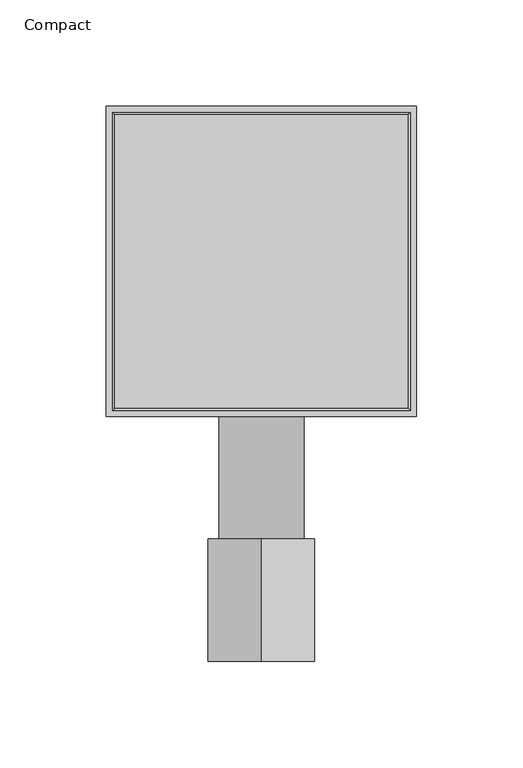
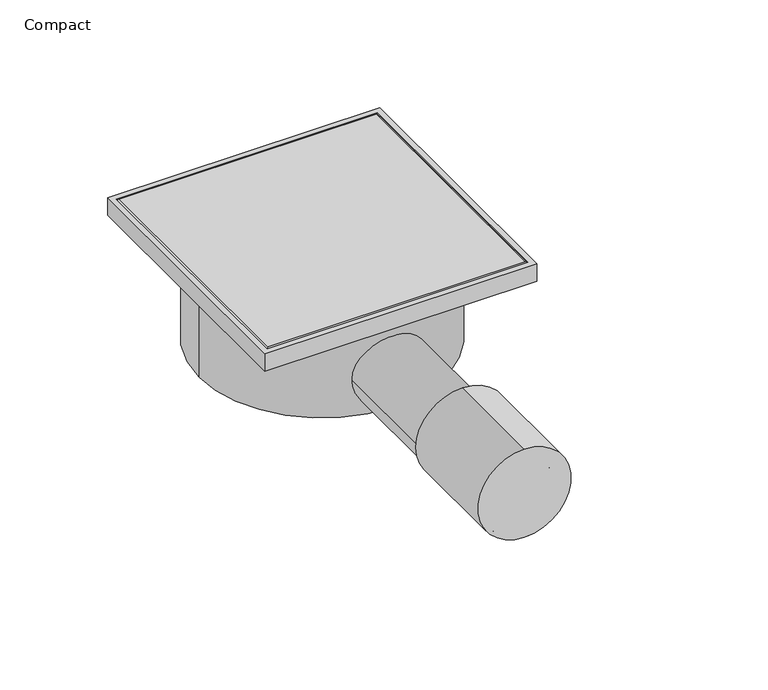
"""IFC4 building model written with IfcOpenShell, lengths in millimetres: sanitary terminal geometry, NLRS_PF_52_UN_Aqua Compact_Easydrain : Compact."""

import ifcopenshell
import ifcopenshell.guid

model = None  # the IFC model being written
_history = None  # IfcOwnerHistory: only IFC2X3 demands one
_inside = {}  # id of a spatial element -> (the spatial element, [elements in it])
_under = {}  # id of a project, library or spatial element -> (it, [spatial elements below it])
_declared = {}  # id of a project -> (the project, [libraries it declares])
_typed = {}  # id of a type object -> (the type object, [elements of that type])
_made_of = {}  # id of a material, layer set ... -> (it, [elements and type objects made of it])


def new_model(schema):
    """Start an empty IFC model of exactly this schema.

    Asked for "IFC4X3", IfcOpenShell would pick the latest addendum, in which some entities
    have other attributes; the version numbers below select the first issue.
    IFC2X3 requires an IfcOwnerHistory on every rooted entity: one is made here for all.
    """
    global model, _history
    if schema == "IFC4X3":
        model = ifcopenshell.file(schema_version=(4, 3, 0, 0))
    else:
        model = ifcopenshell.file(schema=schema)
    _inside.clear()
    _under.clear()
    _declared.clear()
    _typed.clear()
    _made_of.clear()
    _history = None
    if model.schema == "IFC2X3":
        org = make("IfcOrganization", Name="unknown")
        user = make(
            "IfcPersonAndOrganization",
            ThePerson=make("IfcPerson", FamilyName="unknown"),
            TheOrganization=org,
        )
        app = make(
            "IfcApplication",
            ApplicationDeveloper=org,
            Version="unknown",
            ApplicationFullName="unknown",
            ApplicationIdentifier="unknown",
        )
        _history = make(
            "IfcOwnerHistory",
            OwningUser=user,
            OwningApplication=app,
            ChangeAction="ADDED",
            CreationDate=0,
        )
    return model


def make(cls, **values):
    """One entity of the class cls with the attributes given. An attribute that is None is left unset."""
    return model.create_entity(
        cls, **{name: value for name, value in values.items() if value is not None}
    )


def rooted(cls, **values):
    """An entity with a GlobalId (a new one), such as an element, a storey or a relation."""
    return make(cls, GlobalId=ifcopenshell.guid.new(), OwnerHistory=_history, **values)


def si_unit(unit_type, name, prefix=None):
    """IfcSIUnit, for example si_unit("LENGTHUNIT", "METRE", prefix="MILLI")."""
    return make("IfcSIUnit", UnitType=unit_type, Prefix=prefix, Name=name)


def assignment(units):
    """IfcUnitAssignment: the units of a project."""
    return None if units is None else make("IfcUnitAssignment", Units=units)


def point(xyz):
    """IfcCartesianPoint."""
    return None if xyz is None else make("IfcCartesianPoint", Coordinates=xyz)


def direction(xyz):
    """IfcDirection."""
    return None if xyz is None else make("IfcDirection", DirectionRatios=xyz)


def frame(location, z_axis=None, x_axis=None):
    """IfcAxis2Placement3D, a coordinate frame: its origin and axes. An axis left out is left unset."""
    return make(
        "IfcAxis2Placement3D",
        Location=point(location),
        Axis=direction(z_axis),
        RefDirection=direction(x_axis),
    )


def frame_2d(location, x_axis=None):
    """IfcAxis2Placement2D, a coordinate frame in the plane: its origin and x axis."""
    return make(
        "IfcAxis2Placement2D", Location=point(location), RefDirection=direction(x_axis)
    )


def origin():
    """The frame at (0, 0, 0) with its axes left unset."""
    return frame((0.0, 0.0, 0.0))


def origin_2d():
    """The frame at (0, 0) in the plane with its x axis left unset."""
    return frame_2d((0.0, 0.0))


def place(relative_to, where):
    """IfcLocalPlacement: puts the frame where relative to a parent placement (None: the world)."""
    return make(
        "IfcLocalPlacement", PlacementRelTo=relative_to, RelativePlacement=where
    )


def context(
    kind, dimensions, precision=None, world=None, true_north=None, identifier=None
):
    """IfcGeometricRepresentationContext, for example the 3D "Model" context."""
    return make(
        "IfcGeometricRepresentationContext",
        ContextIdentifier=identifier,
        ContextType=kind,
        CoordinateSpaceDimension=dimensions,
        Precision=precision,
        WorldCoordinateSystem=world,
        TrueNorth=true_north,
    )


def project(units=None, contexts=None):
    """IfcProject with its units and contexts."""
    return rooted(
        "IfcProject",
        Name="project",
        RepresentationContexts=contexts,
        UnitsInContext=assignment(units),
    )


def spatial(cls, under=None, at=None, **own):
    """A site, building, storey or space (cls), placed at a placement, below another one or the project."""
    s = rooted(cls, ObjectPlacement=at, **own)
    if under is not None:
        _under.setdefault(under.id(), (under, []))[1].append(s)
    return s


def polyline(points):
    """IfcPolyline through the points."""
    return make("IfcPolyline", Points=[point(p) for p in points])


def circle_curve(where, radius):
    """IfcCircle in the frame where."""
    return make("IfcCircle", Position=where, Radius=radius)


def ellipse_curve(where, semi_axis1, semi_axis2):
    """IfcEllipse in the frame where."""
    return make(
        "IfcEllipse", Position=where, SemiAxis1=semi_axis1, SemiAxis2=semi_axis2
    )


def trimmed(basis, trim1, trim2, sense, master):
    """IfcTrimmedCurve: the piece of a basis curve between two trims."""
    return make(
        "IfcTrimmedCurve",
        BasisCurve=basis,
        Trim1=trim1,
        Trim2=trim2,
        SenseAgreement=sense,
        MasterRepresentation=master,
    )


def segment(curve, same_sense, transition):
    """IfcCompositeCurveSegment."""
    return make(
        "IfcCompositeCurveSegment",
        Transition=transition,
        SameSense=same_sense,
        ParentCurve=curve,
    )


def composite_curve(segments, self_intersect=None):
    """IfcCompositeCurve: segments joined end to end."""
    return make("IfcCompositeCurve", Segments=segments, SelfIntersect=self_intersect)


def outline(outer, holes=None, kind="AREA"):
    """IfcArbitraryClosedProfileDef: a profile drawn as a closed curve; with holes, ...WithVoids."""
    if holes is None:
        return make("IfcArbitraryClosedProfileDef", ProfileType=kind, OuterCurve=outer)
    return make(
        "IfcArbitraryProfileDefWithVoids",
        ProfileType=kind,
        OuterCurve=outer,
        InnerCurves=holes,
    )


def extrude(swept, where, along, depth):
    """IfcExtrudedAreaSolid: the profile swept, set in the frame where, extruded along a direction by depth."""
    return make(
        "IfcExtrudedAreaSolid",
        SweptArea=swept,
        Position=where,
        ExtrudedDirection=direction(along),
        Depth=depth,
    )


def shape(context_of_items, identifier, shape_type, items):
    """IfcShapeRepresentation: the items that make up one representation, for example the "Body"."""
    return make(
        "IfcShapeRepresentation",
        ContextOfItems=context_of_items,
        RepresentationIdentifier=identifier,
        RepresentationType=shape_type,
        Items=items,
    )


def source(mapping_origin, context_of_items, identifier, shape_type, items):
    """IfcRepresentationMap: a shape defined once, which mapped items show again and again."""
    return make(
        "IfcRepresentationMap",
        MappingOrigin=mapping_origin,
        MappedRepresentation=shape(context_of_items, identifier, shape_type, items),
    )


def transform(
    local_origin,
    x_axis=None,
    y_axis=None,
    z_axis=None,
    scale=None,
    scale2=None,
    scale3=None,
    uniform=True,
):
    """IfcCartesianTransformationOperator3D, or its non-uniform kind. x_axis, y_axis, z_axis: its Axis1, 2, 3."""
    if uniform:
        return make(
            "IfcCartesianTransformationOperator3D",
            Axis1=direction(x_axis),
            Axis2=direction(y_axis),
            LocalOrigin=point(local_origin),
            Scale=scale,
            Axis3=direction(z_axis),
        )
    return make(
        "IfcCartesianTransformationOperator3DnonUniform",
        Axis1=direction(x_axis),
        Axis2=direction(y_axis),
        LocalOrigin=point(local_origin),
        Scale=scale,
        Axis3=direction(z_axis),
        Scale2=scale2,
        Scale3=scale3,
    )


def mapped(mapping_source, mapping_target):
    """IfcMappedItem: shows the shape of a source again, moved by a transform."""
    return make(
        "IfcMappedItem", MappingSource=mapping_source, MappingTarget=mapping_target
    )


def made_of(thing, what):
    """Note that an element or type object is made of a material, layer set ...; save() writes the relation."""
    if what is not None:
        _made_of.setdefault(what.id(), (what, []))[1].append(thing)
    return thing


def element(
    cls,
    number,
    at=None,
    inside=None,
    cuts=None,
    type_object=None,
    material=None,
    context=None,
    identifier="Body",
    shape_type=None,
    held_by="IfcProductDefinitionShape",
    body=None,
    shapes=None,
    **own,
):
    """One element of the class cls, such as IfcWall. Its Tag is "e" and its number.

    at: its placement. inside: the storey or other place that contains it. cuts: it is an
    opening in that element (IfcRelVoidsElement). A single representation is given by context,
    identifier, shape_type and body (its items); several are given by shapes. held_by: the class
    of the entity that holds the representations. save() writes the other relations.
    """
    e = rooted(cls, Tag="e%d" % number, ObjectPlacement=at, **own)
    if body is not None:
        shapes = [shape(context, identifier, shape_type, body)]
    if shapes is not None:
        e.Representation = make(held_by, Representations=shapes)
    if inside is not None:
        _inside.setdefault(inside.id(), (inside, []))[1].append(e)
    if cuts is not None:
        rooted(
            "IfcRelVoidsElement", RelatingBuildingElement=cuts, RelatedOpeningElement=e
        )
    if type_object is not None:
        _typed.setdefault(type_object.id(), (type_object, []))[1].append(e)
    return made_of(e, material)


def aggregate(whole, parts):
    """IfcRelAggregates: a whole, such as a stair, and the parts it consists of."""
    return rooted("IfcRelAggregates", RelatingObject=whole, RelatedObjects=parts)


def save(model, path):
    """Write the relations noted so far, then the file.

    IfcRelAggregates (storeys below a building ...), IfcRelContainedInSpatialStructure (elements
    in a storey), IfcRelDefinesByType, IfcRelAssociatesMaterial and IfcRelDeclares: one each for
    every whole, place, type object, material and project.
    """
    for whole, parts in _under.values():
        aggregate(whole, parts)
    for where, things in _inside.values():
        rooted(
            "IfcRelContainedInSpatialStructure",
            RelatedElements=things,
            RelatingStructure=where,
        )
    for kind, things in _typed.values():
        rooted("IfcRelDefinesByType", RelatedObjects=things, RelatingType=kind)
    for what, things in _made_of.values():
        rooted("IfcRelAssociatesMaterial", RelatedObjects=things, RelatingMaterial=what)
    for by, libraries in _declared.values():
        rooted("IfcRelDeclares", RelatingContext=by, RelatedDefinitions=libraries)
    model.write(path)


def plane_surface(at):
    """IfcPlane: the flat surface through the origin of the frame at, square to its z axis."""
    return make("IfcPlane", Position=at)


def cylinder_surface(at, radius):
    """IfcCylindricalSurface: all points at the distance radius from the z axis of the frame at."""
    return make("IfcCylindricalSurface", Position=at, Radius=radius)


def advanced_brep(points, edges, surfaces, faces):
    """IfcAdvancedBrep: a solid bounded by faces that lie on surfaces and meet in shared edges.

    An edge is (start, end): straight between two places in points (the first is 0);
    or (start, end, curve); or (start, end, curve, False) where it runs against its curve.
    A face is (place in surfaces, loops), or (place, loops, False) where it looks against
    its surface's normal. A loop lists edges by number (the first is 1), with a minus sign
    where the edge is run from its end to its start. The first loop is the outer one.
    """
    corners = [point(p) for p in points]
    vertices = [make("IfcVertexPoint", VertexGeometry=c) for c in corners]
    made = []
    for start, end, *more in edges:
        made.append(
            make(
                "IfcEdgeCurve",
                EdgeStart=vertices[start],
                EdgeEnd=vertices[end],
                EdgeGeometry=more[0] if more else make("IfcPolyline", Points=[corners[start], corners[end]]),
                SameSense=more[1] if len(more) > 1 else True,
            )
        )
    hull = []
    for where, loops, *sense in faces:
        bounds = []
        for j, loop in enumerate(loops):
            ring = [make("IfcOrientedEdge", EdgeElement=made[abs(k) - 1], Orientation=k > 0) for k in loop]
            bounds.append(
                make(
                    "IfcFaceOuterBound" if j == 0 else "IfcFaceBound",
                    Bound=make("IfcEdgeLoop", EdgeList=ring),
                    Orientation=True,
                )
            )
        hull.append(make("IfcAdvancedFace", Bounds=bounds, FaceSurface=surfaces[where], SameSense=sense[0] if sense else True))
    return make("IfcAdvancedBrep", Outer=make("IfcClosedShell", CfsFaces=hull))


def compact_d3044acb(model_context):
    return source(origin(), model_context, "Body", "SolidModel", [
        extrude(outline(composite_curve([segment(trimmed(circle_curve(frame_2d((-35.0, 0.0)), 25.0), [point((-10.0, 0.0))], [point((-60.0, 0.0))], False, "CARTESIAN"), True, "CONTINUOUS"), segment(trimmed(circle_curve(frame_2d((-35.0, 0.0)), 25.0), [point((-60.0, 0.0))], [point((-10.0, 0.0))], False, "CARTESIAN"), True, "CONTINUOUS")], self_intersect=False)), frame((0.0, -188.0, 0.0), z_axis=(0.0, 1.0, 0.0), x_axis=(0.0, 0.0, 1.0)), (0.0, 0.0, 1.0), 57.5),
        extrude(outline(composite_curve([segment(trimmed(circle_curve(frame_2d((-40.0, 0.0)), 20.0), [point((-40.0, -20.0))], [point((-40.0, 20.0))], False, "CARTESIAN"), True, "CONTINUOUS"), segment(trimmed(circle_curve(frame_2d((-40.0, 0.0)), 20.0), [point((-40.0, 20.0))], [point((-40.0, -20.0))], False, "CARTESIAN"), True, "CONTINUOUS")], self_intersect=False)), frame((0.0, -188.0, 0.0), z_axis=(0.0, 1.0, 0.0), x_axis=(0.0, 0.0, 1.0)), (0.0, 0.0, 1.0), 188.0),
        extrude(outline(polyline([(73.0, 73.0), (73.0, -73.0), (-73.0, -73.0), (-73.0, 73.0), (73.0, 73.0)]), holes=[polyline([(70.0, 70.0), (-70.0, 70.0), (-70.0, -70.0), (70.0, -70.0), (70.0, 70.0)])]), frame((0.0, 0.0, -10.0), z_axis=(0.0, 0.0, 1.0), x_axis=(1.0, 0.0, 0.0)), (0.0, 0.0, 1.0), 10.0),
        advanced_brep(
        [(70.0, 70.0, -10.0), (70.0, -70.0, -10.0), (-70.0, -70.0, -10.0), (-70.0, 70.0, -10.0), (-69.0, 69.0, 0.0), (-69.0, -69.0, 0.0), (69.0, -69.0, 0.0), (69.0, 69.0, 0.0), (-70.0, 70.0, -1.0), (70.0, 70.0, -1.0), (-70.0, -70.0, -1.0), (70.0, -70.0, -1.0)],
        [
            (0, 1),
            (1, 2),
            (2, 3),
            (3, 0),
            (4, 5),
            (5, 6),
            (6, 7),
            (7, 4),
            (3, 8),
            (8, 9),
            (9, 0),
            (2, 10),
            (10, 8),
            (1, 11),
            (11, 10),
            (9, 11),
            (10, 5, ellipse_curve(frame((-69.0, -69.0, -1.0), z_axis=(-0.7071067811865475, 0.7071067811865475, 0.0), x_axis=(-0.7071067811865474, -0.7071067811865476, 0.0)), 1.4142136, 1.0)),
            (4, 8, ellipse_curve(frame((-69.0, 69.0, -1.0), z_axis=(-0.7071067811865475, -0.7071067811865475, 0.0), x_axis=(0.7071067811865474, -0.7071067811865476, 0.0)), 1.4142136, 1.0)),
            (11, 6, ellipse_curve(frame((69.0, -69.0, -1.0), z_axis=(-0.7071067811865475, -0.7071067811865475, 0.0), x_axis=(0.7071067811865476, -0.7071067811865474, 0.0)), 1.4142136, 1.0)),
            (9, 7, ellipse_curve(frame((69.0, 69.0, -1.0), z_axis=(0.7071067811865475, -0.7071067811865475, 0.0), x_axis=(0.7071067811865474, 0.7071067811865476, 0.0)), 1.4142136, 1.0)),
        ],
        [
            plane_surface(frame((-70.0, 70.0, -10.0), z_axis=(0.0, 0.0, -1.0), x_axis=(1.0, 0.0, 0.0))),
            plane_surface(frame((-70.0, 70.0, 0.0), z_axis=(0.0, 0.0, 1.0), x_axis=(-1.0, 0.0, 0.0))),
            plane_surface(frame((70.0, 70.0, 0.0), z_axis=(0.0, 1.0, 0.0), x_axis=(0.0, 0.0, -1.0))),
            plane_surface(frame((-70.0, 70.0, 0.0), z_axis=(-1.0, 0.0, 0.0), x_axis=(0.0, 0.0, -1.0))),
            plane_surface(frame((-70.0, -70.0, 0.0), z_axis=(0.0, -1.0, 0.0), x_axis=(0.0, 0.0, -1.0))),
            plane_surface(frame((70.0, -70.0, 0.0), z_axis=(1.0, 0.0, 0.0), x_axis=(0.0, 0.0, -1.0))),
            cylinder_surface(frame((-69.0, 70.0, -1.0), z_axis=(0.0, -1.0, 0.0), x_axis=(1.0, 0.0, 0.0)), 1.0),
            cylinder_surface(frame((-70.0, -69.0, -1.0), z_axis=(1.0, 0.0, 0.0), x_axis=(0.0, 1.0, 0.0)), 1.0),
            cylinder_surface(frame((69.0, -70.0, -1.0), z_axis=(0.0, 1.0, 0.0), x_axis=(-1.0, 0.0, 0.0)), 1.0),
            cylinder_surface(frame((70.0, 69.0, -1.0), z_axis=(-1.0, 0.0, 0.0), x_axis=(0.0, -1.0, 0.0)), 1.0),
        ],
        [
            (0, [[1, 2, 3, 4]]),
            (1, [[5, 6, 7, 8]]),
            (2, [[-4, 9, 10, 11]]),
            (3, [[-3, 12, 13, -9]]),
            (4, [[-2, 14, 15, -12]]),
            (5, [[-1, -11, 16, -14]]),
            (6, [[17, -5, 18, -13]]),
            (7, [[-17, -15, 19, -6]]),
            (8, [[-19, -16, 20, -7]]),
            (9, [[-18, -8, -20, -10]]),
        ],
    ),
        extrude(outline(composite_curve([segment(trimmed(circle_curve(origin_2d(), 66.0), [point((-66.0, 0.0))], [point((66.0, 0.0))], False, "CARTESIAN"), True, "CONTINUOUS"), segment(trimmed(circle_curve(origin_2d(), 66.0), [point((66.0, 0.0))], [point((-66.0, 0.0))], False, "CARTESIAN"), True, "CONTINUOUS")], self_intersect=False)), frame((0.0, 0.0, -60.0), z_axis=(0.0, 0.0, 1.0), x_axis=(1.0, 0.0, 0.0)), (0.0, 0.0, 1.0), 50.0),
    ])


if __name__ == "__main__":
    model = new_model("IFC4")
    model_context = context("Model", 3, world=origin())
    ifc_project = project(units=[si_unit("LENGTHUNIT", "METRE", prefix="MILLI")], contexts=[model_context])
    site = spatial("IfcSite", under=ifc_project)
    building = spatial("IfcBuilding", under=site)
    placement = place(None, origin())
    compact_shape = compact_d3044acb(model_context)
    element("IfcSanitaryTerminal", 1, ObjectType="NLRS_PF_52_UN_Aqua Compact_Easydrain : Compact", at=placement, inside=building, context=model_context, shape_type="MappedRepresentation", body=[
        mapped(compact_shape, transform((0.0, 0.0, 0.0), x_axis=(1.0, 0.0, 0.0), y_axis=(0.0, 1.0, 0.0), z_axis=(0.0, 0.0, 1.0))),
    ])
    save(model, "model.ifc")
